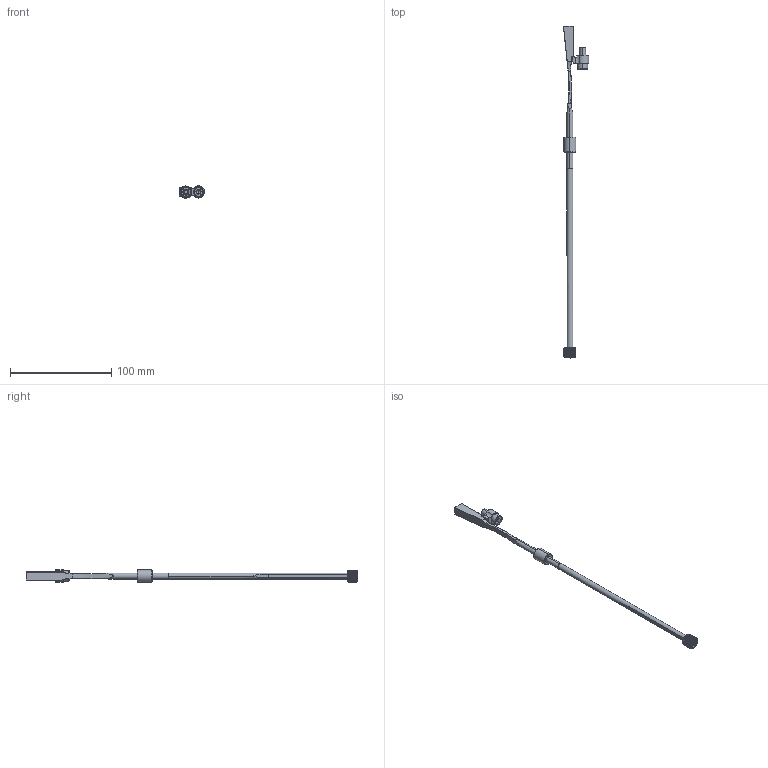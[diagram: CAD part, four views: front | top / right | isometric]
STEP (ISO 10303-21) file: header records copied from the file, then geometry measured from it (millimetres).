
FILE_DESCRIPTION (( 'STEP AP214' ), '1' );
FILE_NAME ('PX060830-325 WEB.STEP', '2020-02-10T09:46:55', ( '' ), ( '' ), 'SwSTEP 2.0', 'SolidWorks 2018', '' );
FILE_SCHEMA (( 'AUTOMOTIVE_DESIGN' ));
Length unit declared in the file: millimetre
Products named in the file (10): 9AX060184 rectificado plano; 9TP0610HX; 8PX060830 Rosca Mecha cerrada; 9TP0610HX-1; 9CS061215; 9PX-TOPE; PX060830-325 WEB; 1DIN912616_DIN 912 M6 x 16 --- 16C; 9PX060830-325_cerrada; JT ﾘ6X1,5
Assembly tree (9 placements, depth 3):
  PX060830-325 WEB
    9CS061215
    9TP0610HX
      9TP0610HX-1
      JT ﾘ6X1,5
    9PX060830-325_cerrada
      9AX060184 rectificado plano
      8PX060830 Rosca Mecha cerrada
    1DIN912616_DIN 912 M6 x 16 --- 16C
    9PX-TOPE
Bounding box: 25 x 328.4 x 12.1 mm (x, y, z)
Volume: 13472.9 mm3; surface area: 10585 mm2
Topology: 7 solids, 7 shells, 468 faces, 1268 edges, 813 vertices
Faces by surface type: plane 237, cylinder 157, cone 38, torus 24, bspline 8, sphere 4
Entity records: 16037 total; most frequent: CARTESIAN_POINT 4353, ORIENTED_EDGE 2520, DIRECTION 2151, EDGE_CURVE 1260, AXIS2_PLACEMENT_3D 847, VERTEX_POINT 813, EDGE_LOOP 483, ADVANCED_FACE 468
